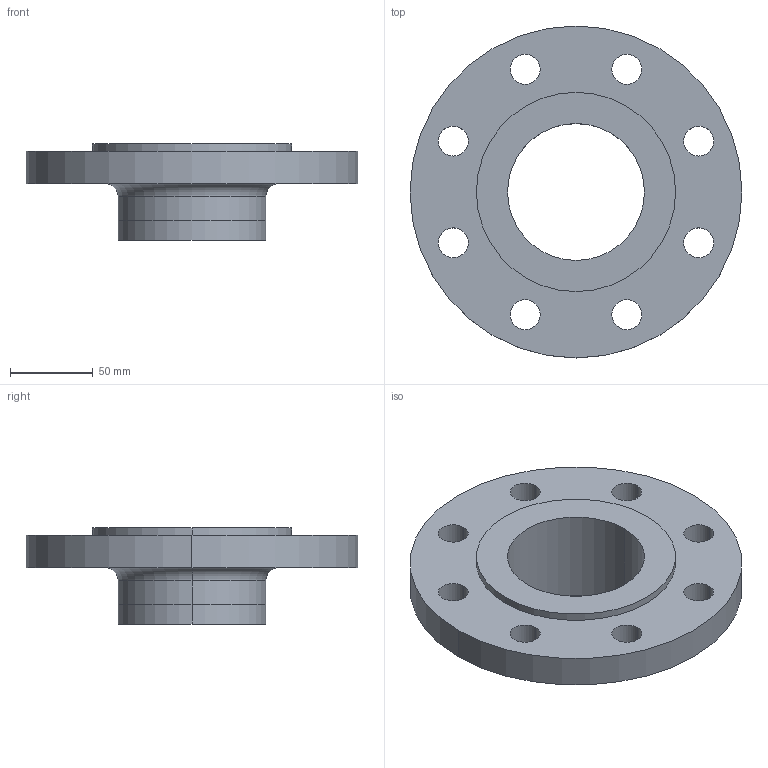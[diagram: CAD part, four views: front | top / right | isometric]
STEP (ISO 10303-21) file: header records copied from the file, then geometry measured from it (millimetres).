
FILE_DESCRIPTION (( 'STEP AP214' ), '1' );
FILE_NAME ('PN40 DN80 Type 11 - Type E Face.STEP', '2019-01-01T19:42:17', ( '' ), ( '' ), 'SwSTEP 2.0', 'SolidWorks 2019', '' );
FILE_SCHEMA (( 'AUTOMOTIVE_DESIGN' ));
Length unit declared in the file: millimetre
Products named in the file (1): PN40 DN80 Type 11 - Type E Face
Bounding box: 200 x 200 x 58 mm (x, y, z)
Volume: 529009.1 mm3; surface area: 94426.9 mm2
Topology: 1 solids, 1 shells, 34 faces, 84 edges, 54 vertices
Faces by surface type: cylinder 24, torus 4, plane 4, cone 2
Entity records: 1108 total; most frequent: DIRECTION 212, CARTESIAN_POINT 173, ORIENTED_EDGE 168, AXIS2_PLACEMENT_3D 93, EDGE_CURVE 84, CIRCLE 58, VERTEX_POINT 54, EDGE_LOOP 54
